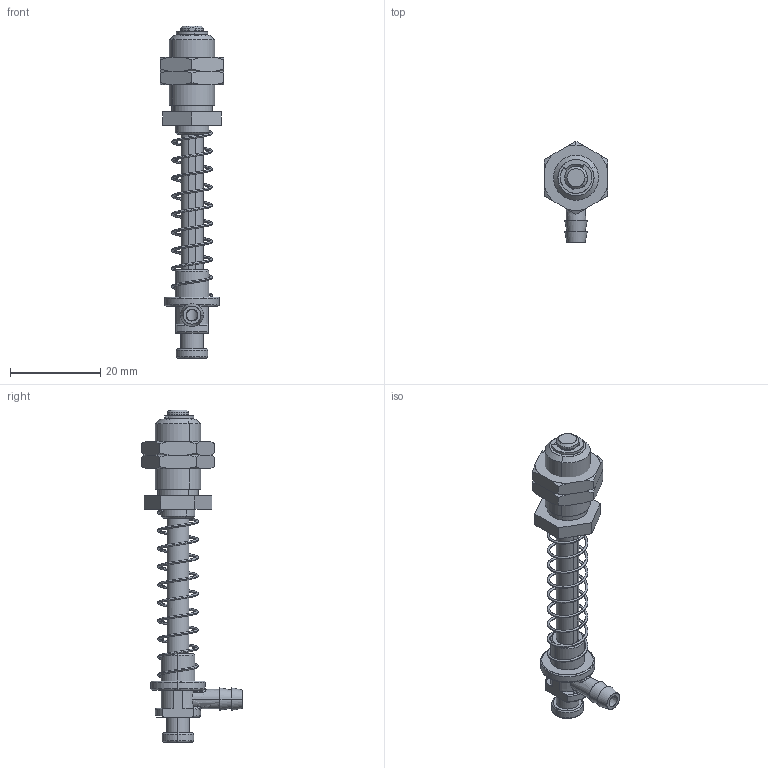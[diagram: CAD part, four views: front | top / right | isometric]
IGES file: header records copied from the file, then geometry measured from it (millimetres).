
Start section: SolidWorks IGES file using analytic representation for surfaces
Global section: file name: C:\Users\STAR056C\Desktop\1080_h-yashiro\図面データ\211112\211112.IGS; native system: SolidWorks 2018; preprocessor: SolidWorks 2018; author: STAR056C; date: 200618.115159; units: millimetre
Bounding box: 14 x 22.38 x 73.5 mm (x, y, z)
Surface area: 4577.5 mm2 (no closed solid volume)
Topology: 0 solids, 0 shells, 193 faces, 2637 edges, 2633 vertices
Faces by surface type: revolution 102, bspline 91
